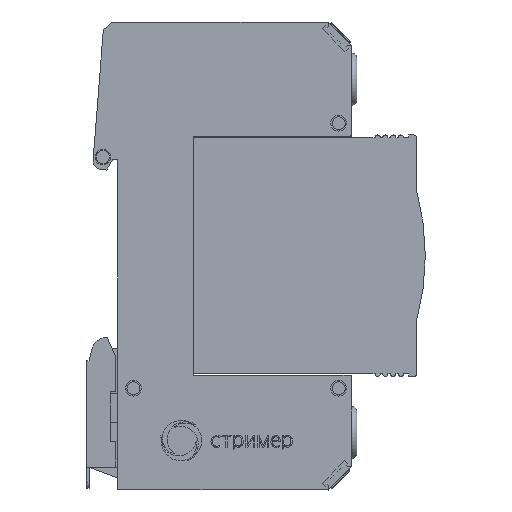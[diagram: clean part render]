
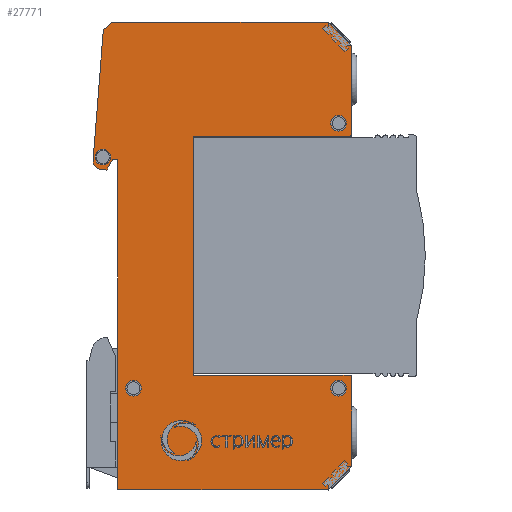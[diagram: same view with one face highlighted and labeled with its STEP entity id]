
A CAD part, front view. The second image highlights one B-rep face of the part: STEP entity #27771.
In plain terms, the highlighted planar face has unit normal (0, -1, 0).
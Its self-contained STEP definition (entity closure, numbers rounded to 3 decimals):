
#25699=CARTESIAN_POINT('',(30.,-9.,-23.));
#25700=VERTEX_POINT('',#25699);
#25738=CARTESIAN_POINT('',(0.,-9.,-23.));
#25739=VERTEX_POINT('',#25738);
#25746=CARTESIAN_POINT('',(30.,-9.,-23.));
#25747=DIRECTION('',(-1.,0.,0.));
#25748=VECTOR('',#25747,30.);
#25749=LINE('',#25746,#25748);
#25750=EDGE_CURVE('',#25700,#25739,#25749,.T.);
#25794=CARTESIAN_POINT('',(30.,-9.,23.));
#25795=VERTEX_POINT('',#25794);
#25802=CARTESIAN_POINT('',(0.,-9.,23.));
#25803=VERTEX_POINT('',#25802);
#25804=CARTESIAN_POINT('',(0.,-9.,23.));
#25805=DIRECTION('',(1.,0.,0.));
#25806=VECTOR('',#25805,30.);
#25807=LINE('',#25804,#25806);
#25808=EDGE_CURVE('',#25803,#25795,#25807,.T.);
#25933=CARTESIAN_POINT('',(-14.5,-9.,-45.));
#25934=VERTEX_POINT('',#25933);
#25935=CARTESIAN_POINT('',(26.,-9.,-45.));
#25936=VERTEX_POINT('',#25935);
#25937=CARTESIAN_POINT('',(-14.5,-9.,-45.));
#25938=DIRECTION('',(1.,0.,-0.));
#25939=VECTOR('',#25938,40.5);
#25940=LINE('',#25937,#25939);
#25941=EDGE_CURVE('',#25934,#25936,#25940,.T.);
#26603=CARTESIAN_POINT('',(-14.5,-9.,18.5));
#26604=VERTEX_POINT('',#26603);
#26605=CARTESIAN_POINT('',(-14.5,-9.,18.5));
#26606=DIRECTION('',(0.,0.,-1.));
#26607=VECTOR('',#26606,63.5);
#26608=LINE('',#26605,#26607);
#26609=EDGE_CURVE('',#26604,#25934,#26608,.T.);
#26804=CARTESIAN_POINT('',(-15.5,-9.,45.));
#26805=VERTEX_POINT('',#26804);
#26806=CARTESIAN_POINT('',(-17.29,-9.,43.498));
#26807=VERTEX_POINT('',#26806);
#26808=CARTESIAN_POINT('',(-15.5,-9.,45.));
#26809=DIRECTION('',(-0.766,0.,-0.643));
#26810=VECTOR('',#26809,2.337);
#26811=LINE('',#26808,#26810);
#26812=EDGE_CURVE('',#26805,#26807,#26811,.T.);
#26844=CARTESIAN_POINT('',(-19.273,-9.,18.306));
#26845=VERTEX_POINT('',#26844);
#26846=CARTESIAN_POINT('',(-17.29,-9.,43.498));
#26847=DIRECTION('',(-0.078,0.,-0.997));
#26848=VECTOR('',#26847,25.27);
#26849=LINE('',#26846,#26848);
#26850=EDGE_CURVE('',#26807,#26845,#26849,.T.);
#26875=CARTESIAN_POINT('',(-17.999,-9.,16.704));
#26876=VERTEX_POINT('',#26875);
#26877=CARTESIAN_POINT('',(-17.777,-9.,18.188));
#26878=DIRECTION('',(0.,-1.,0.));
#26879=DIRECTION('',(0.,0.,1.));
#26880=AXIS2_PLACEMENT_3D('',#26877,#26878,#26879);
#26881=CIRCLE('',#26880,1.5);
#26882=EDGE_CURVE('',#26845,#26876,#26881,.T.);
#26908=CARTESIAN_POINT('',(-16.632,-9.,16.5));
#26909=VERTEX_POINT('',#26908);
#26910=CARTESIAN_POINT('',(-17.999,-9.,16.704));
#26911=DIRECTION('',(0.989,0.,-0.148));
#26912=VECTOR('',#26911,1.383);
#26913=LINE('',#26910,#26912);
#26914=EDGE_CURVE('',#26876,#26909,#26913,.T.);
#26939=CARTESIAN_POINT('',(-15.5,-9.,18.5));
#26940=VERTEX_POINT('',#26939);
#26941=CARTESIAN_POINT('',(-16.632,-9.,16.5));
#26942=DIRECTION('',(0.492,0.,0.87));
#26943=VECTOR('',#26942,2.298);
#26944=LINE('',#26941,#26943);
#26945=EDGE_CURVE('',#26909,#26940,#26944,.T.);
#26970=CARTESIAN_POINT('',(-15.5,-9.,18.5));
#26971=DIRECTION('',(1.,0.,0.));
#26972=VECTOR('',#26971,1.);
#26973=LINE('',#26970,#26972);
#26974=EDGE_CURVE('',#26940,#26604,#26973,.T.);
#26992=CARTESIAN_POINT('',(30.5,-9.,-40.5));
#26993=VERTEX_POINT('',#26992);
#26994=CARTESIAN_POINT('',(26.,-9.,-45.));
#26995=DIRECTION('',(0.707,0.,0.707));
#26996=VECTOR('',#26995,6.364);
#26997=LINE('',#26994,#26996);
#26998=EDGE_CURVE('',#25936,#26993,#26997,.T.);
#27047=CARTESIAN_POINT('',(30.5,-9.,-23.5));
#27048=VERTEX_POINT('',#27047);
#27055=CARTESIAN_POINT('',(30.5,-9.,-40.5));
#27056=DIRECTION('',(0.,0.,1.));
#27057=VECTOR('',#27056,17.);
#27058=LINE('',#27055,#27057);
#27059=EDGE_CURVE('',#26993,#27048,#27058,.T.);
#27105=CARTESIAN_POINT('',(30.,-9.,-23.5));
#27106=DIRECTION('',(0.,-1.,0.));
#27107=DIRECTION('',(0.,0.,1.));
#27108=AXIS2_PLACEMENT_3D('',#27105,#27106,#27107);
#27109=CIRCLE('',#27108,0.5);
#27110=EDGE_CURVE('',#27048,#25700,#27109,.T.);
#27121=CARTESIAN_POINT('',(0.,-9.,-23.));
#27122=DIRECTION('',(0.,0.,1.));
#27123=VECTOR('',#27122,46.);
#27124=LINE('',#27121,#27123);
#27125=EDGE_CURVE('',#25739,#25803,#27124,.T.);
#27152=CARTESIAN_POINT('',(30.5,-9.,23.5));
#27153=VERTEX_POINT('',#27152);
#27160=CARTESIAN_POINT('',(30.,-9.,23.5));
#27161=DIRECTION('',(0.,-1.,0.));
#27162=DIRECTION('',(0.,0.,1.));
#27163=AXIS2_PLACEMENT_3D('',#27160,#27161,#27162);
#27164=CIRCLE('',#27163,0.5);
#27165=EDGE_CURVE('',#25795,#27153,#27164,.T.);
#27193=CARTESIAN_POINT('',(30.5,-9.,40.5));
#27194=VERTEX_POINT('',#27193);
#27201=CARTESIAN_POINT('',(30.5,-9.,23.5));
#27202=DIRECTION('',(0.,0.,1.));
#27203=VECTOR('',#27202,17.);
#27204=LINE('',#27201,#27203);
#27205=EDGE_CURVE('',#27153,#27194,#27204,.T.);
#27250=CARTESIAN_POINT('',(26.,-9.,45.));
#27251=VERTEX_POINT('',#27250);
#27252=CARTESIAN_POINT('',(30.5,-9.,40.5));
#27253=DIRECTION('',(-0.707,0.,0.707));
#27254=VECTOR('',#27253,6.364);
#27255=LINE('',#27252,#27254);
#27256=EDGE_CURVE('',#27194,#27251,#27255,.T.);
#27281=CARTESIAN_POINT('',(-17.38,-9.,17.5));
#27282=VERTEX_POINT('',#27281);
#27291=CARTESIAN_POINT('',(-18.88,-9.,19.));
#27292=VERTEX_POINT('',#27291);
#27293=CARTESIAN_POINT('',(-17.38,-9.,19.));
#27294=DIRECTION('',(0.,-1.,0.));
#27295=DIRECTION('',(-1.,0.,0.));
#27296=AXIS2_PLACEMENT_3D('',#27293,#27294,#27295);
#27297=CIRCLE('',#27296,1.5);
#27298=EDGE_CURVE('',#27282,#27292,#27297,.T.);
#27323=CARTESIAN_POINT('',(28.,-9.,24.));
#27324=VERTEX_POINT('',#27323);
#27333=CARTESIAN_POINT('',(26.5,-9.,25.5));
#27334=VERTEX_POINT('',#27333);
#27335=CARTESIAN_POINT('',(28.,-9.,25.5));
#27336=DIRECTION('',(0.,-1.,0.));
#27337=DIRECTION('',(-1.,0.,0.));
#27338=AXIS2_PLACEMENT_3D('',#27335,#27336,#27337);
#27339=CIRCLE('',#27338,1.5);
#27340=EDGE_CURVE('',#27324,#27334,#27339,.T.);
#27401=CARTESIAN_POINT('',(-11.5,-9.,-27.));
#27402=VERTEX_POINT('',#27401);
#27411=CARTESIAN_POINT('',(-13.,-9.,-25.5));
#27412=VERTEX_POINT('',#27411);
#27413=CARTESIAN_POINT('',(-11.5,-9.,-25.5));
#27414=DIRECTION('',(0.,-1.,0.));
#27415=DIRECTION('',(-1.,0.,0.));
#27416=AXIS2_PLACEMENT_3D('',#27413,#27414,#27415);
#27417=CIRCLE('',#27416,1.5);
#27418=EDGE_CURVE('',#27402,#27412,#27417,.T.);
#27443=CARTESIAN_POINT('',(28.,-9.,-27.));
#27444=VERTEX_POINT('',#27443);
#27453=CARTESIAN_POINT('',(26.5,-9.,-25.5));
#27454=VERTEX_POINT('',#27453);
#27455=CARTESIAN_POINT('',(28.,-9.,-25.5));
#27456=DIRECTION('',(0.,-1.,0.));
#27457=DIRECTION('',(-1.,0.,0.));
#27458=AXIS2_PLACEMENT_3D('',#27455,#27456,#27457);
#27459=CIRCLE('',#27458,1.5);
#27460=EDGE_CURVE('',#27444,#27454,#27459,.T.);
#27623=CARTESIAN_POINT('',(26.,-9.,45.));
#27624=DIRECTION('',(-1.,0.,0.));
#27625=VECTOR('',#27624,41.5);
#27626=LINE('',#27623,#27625);
#27627=EDGE_CURVE('',#27251,#26805,#27626,.T.);
#27706=CARTESIAN_POINT('',(0.,-9.,0.));
#27707=DIRECTION('',(0.,-1.,0.));
#27708=DIRECTION('',(0.,0.,1.));
#27709=AXIS2_PLACEMENT_3D('',#27706,#27707,#27708);
#27710=PLANE('',#27709);
#27711=ORIENTED_EDGE('',*,*,#27460,.F.);
#27712=CARTESIAN_POINT('',(28.,-9.,-25.5));
#27713=DIRECTION('',(0.,-1.,0.));
#27714=DIRECTION('',(-1.,0.,0.));
#27715=AXIS2_PLACEMENT_3D('',#27712,#27713,#27714);
#27716=CIRCLE('',#27715,1.5);
#27717=EDGE_CURVE('',#27454,#27444,#27716,.T.);
#27718=ORIENTED_EDGE('',*,*,#27717,.F.);
#27719=EDGE_LOOP('',(#27711,#27718));
#27720=FACE_BOUND('',#27719,.T.);
#27721=ORIENTED_EDGE('',*,*,#27418,.F.);
#27722=CARTESIAN_POINT('',(-11.5,-9.,-25.5));
#27723=DIRECTION('',(0.,-1.,0.));
#27724=DIRECTION('',(-1.,0.,0.));
#27725=AXIS2_PLACEMENT_3D('',#27722,#27723,#27724);
#27726=CIRCLE('',#27725,1.5);
#27727=EDGE_CURVE('',#27412,#27402,#27726,.T.);
#27728=ORIENTED_EDGE('',*,*,#27727,.F.);
#27729=EDGE_LOOP('',(#27721,#27728));
#27730=FACE_BOUND('',#27729,.T.);
#27731=ORIENTED_EDGE('',*,*,#27340,.F.);
#27732=CARTESIAN_POINT('',(28.,-9.,25.5));
#27733=DIRECTION('',(0.,-1.,0.));
#27734=DIRECTION('',(-1.,0.,0.));
#27735=AXIS2_PLACEMENT_3D('',#27732,#27733,#27734);
#27736=CIRCLE('',#27735,1.5);
#27737=EDGE_CURVE('',#27334,#27324,#27736,.T.);
#27738=ORIENTED_EDGE('',*,*,#27737,.F.);
#27739=EDGE_LOOP('',(#27731,#27738));
#27740=FACE_BOUND('',#27739,.T.);
#27741=ORIENTED_EDGE('',*,*,#27298,.F.);
#27742=CARTESIAN_POINT('',(-17.38,-9.,19.));
#27743=DIRECTION('',(0.,-1.,0.));
#27744=DIRECTION('',(-1.,0.,0.));
#27745=AXIS2_PLACEMENT_3D('',#27742,#27743,#27744);
#27746=CIRCLE('',#27745,1.5);
#27747=EDGE_CURVE('',#27292,#27282,#27746,.T.);
#27748=ORIENTED_EDGE('',*,*,#27747,.F.);
#27749=EDGE_LOOP('',(#27741,#27748));
#27750=FACE_BOUND('',#27749,.T.);
#27751=ORIENTED_EDGE('',*,*,#26812,.T.);
#27752=ORIENTED_EDGE('',*,*,#26850,.T.);
#27753=ORIENTED_EDGE('',*,*,#26882,.T.);
#27754=ORIENTED_EDGE('',*,*,#26914,.T.);
#27755=ORIENTED_EDGE('',*,*,#26945,.T.);
#27756=ORIENTED_EDGE('',*,*,#26974,.T.);
#27757=ORIENTED_EDGE('',*,*,#26609,.T.);
#27758=ORIENTED_EDGE('',*,*,#25941,.T.);
#27759=ORIENTED_EDGE('',*,*,#26998,.T.);
#27760=ORIENTED_EDGE('',*,*,#27059,.T.);
#27761=ORIENTED_EDGE('',*,*,#27110,.T.);
#27762=ORIENTED_EDGE('',*,*,#25750,.T.);
#27763=ORIENTED_EDGE('',*,*,#27125,.T.);
#27764=ORIENTED_EDGE('',*,*,#25808,.T.);
#27765=ORIENTED_EDGE('',*,*,#27165,.T.);
#27766=ORIENTED_EDGE('',*,*,#27205,.T.);
#27767=ORIENTED_EDGE('',*,*,#27256,.T.);
#27768=ORIENTED_EDGE('',*,*,#27627,.T.);
#27769=EDGE_LOOP('',(#27751,#27752,#27753,#27754,#27755,#27756,#27757,#27758,#27759,#27760,#27761,#27762,#27763,#27764,#27765,#27766,#27767,#27768));
#27770=FACE_BOUND('',#27769,.T.);
#27771=ADVANCED_FACE('',(#27720,#27730,#27740,#27750,#27770),#27710,.T.);
